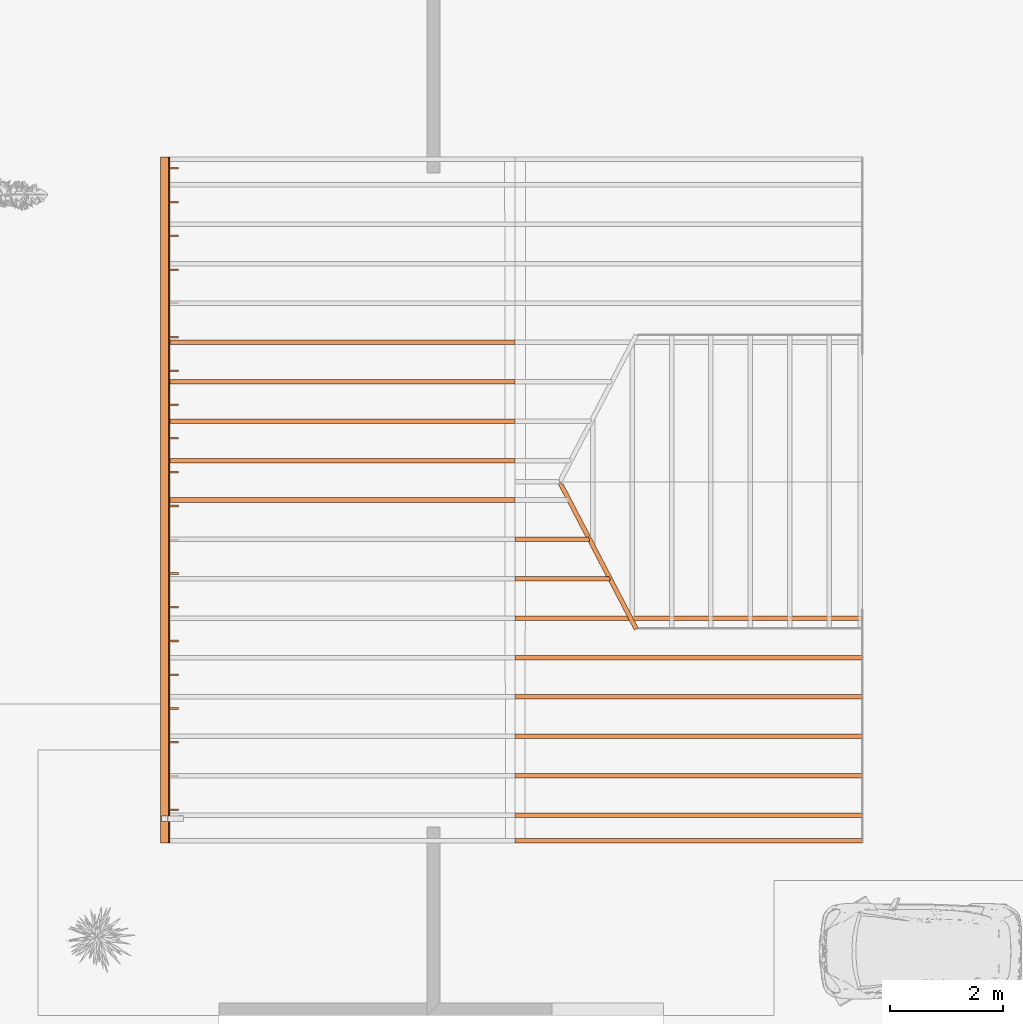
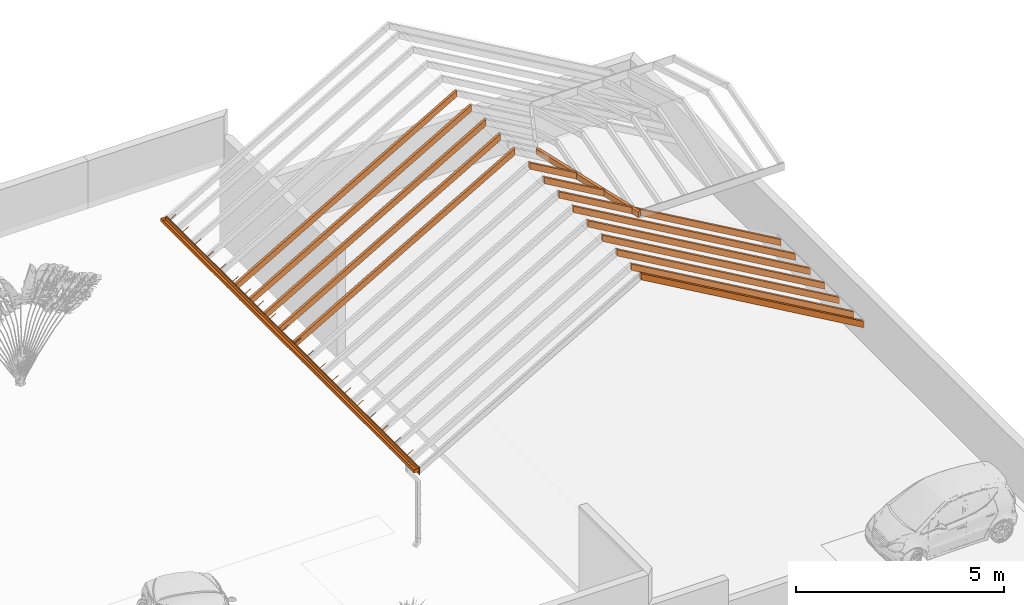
# One storey, part 3 of 7: 33 proxies.
"""IFC2X3 building model written with IfcOpenShell, lengths in metres."""

from ifc_helpers import new_model, entity, si_unit, converted_unit, derived_unit, money_unit, direction, frame, origin_with_axes, place, context, subcontext, project, spatial, open_shell, faceted_brep, surface_model, source, transform, mapped, type_object, element, save


model = new_model("IFC2X3")

# Units and contexts
model_context = context("Model", 3, precision=1e-05, world=origin_with_axes(), true_north=direction((0.0, 1.0)))
body_context = subcontext(model_context, "Body", "Model", "MODEL_VIEW")
ifc_project = project(units=[si_unit("LENGTHUNIT", "METRE"), si_unit("AREAUNIT", "SQUARE_METRE"), si_unit("VOLUMEUNIT", "CUBIC_METRE"), converted_unit("PLANEANGLEUNIT", "DEGREE", entity("IfcPlaneAngleMeasure", 0.0174532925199), si_unit("PLANEANGLEUNIT", "RADIAN"), dimensions=[0, 0, 0, 0, 0, 0, 0]), si_unit("SOLIDANGLEUNIT", "STERADIAN"), money_unit("CHF"), converted_unit("TIMEUNIT", "Year", entity("IfcTimeMeasure", 31556926.0), si_unit("TIMEUNIT", "SECOND"), dimensions=[0, 0, 1, 0, 0, 0, 0]), si_unit("MASSUNIT", "GRAM", prefix="KILO"), si_unit("THERMODYNAMICTEMPERATUREUNIT", "DEGREE_CELSIUS"), si_unit("LUMINOUSINTENSITYUNIT", "LUMEN"), si_unit("ENERGYUNIT", "JOULE", prefix="MEGA"), derived_unit("THERMALCONDUCTANCEUNIT", [(si_unit("POWERUNIT", "WATT"), 1), (si_unit("LENGTHUNIT", "METRE"), -1), (si_unit("THERMODYNAMICTEMPERATUREUNIT", "KELVIN"), -1)]), derived_unit("SPECIFICHEATCAPACITYUNIT", [(si_unit("ENERGYUNIT", "JOULE"), 1), (si_unit("MASSUNIT", "GRAM", prefix="KILO"), -1), (si_unit("THERMODYNAMICTEMPERATUREUNIT", "KELVIN"), -1)]), derived_unit("MASSDENSITYUNIT", [(si_unit("MASSUNIT", "GRAM", prefix="KILO"), 1), (si_unit("VOLUMEUNIT", "CUBIC_METRE"), -1)])], contexts=[model_context])

# Site, building, storey
site_placement = place(None, origin_with_axes())
site = spatial("IfcSite", under=ifc_project, at=site_placement, Name="Site", CompositionType="ELEMENT")
building_placement = place(site_placement, origin_with_axes())
building = spatial("IfcBuilding", under=site, at=building_placement, Name="Bâtiment", CompositionType="ELEMENT")
storey_placement = place(building_placement, frame((0.0, 0.0, 9.0), z_axis=(0.0, 0.0, 1.0), x_axis=(1.0, 0.0, 0.0)))
storey = spatial("IfcBuildingStorey", under=building, at=storey_placement, Name="TOITURE", CompositionType="ELEMENT", Elevation=9.0)

# Proxies
building_element_proxy_type_1 = type_object("IfcBuildingElementProxyType", Name="Chevron RM 20", PredefinedType="NOTDEFINED")
shared_shape_1 = source(origin_with_axes(), body_context, "Body", "Brep", [
    faceted_brep([(-0.248603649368, -0.04, 0.0412207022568), (5.88999992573, -0.04, 3.58534512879), (5.88999992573, 0.04, 3.58534512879), (-0.248603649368, 0.04, 0.0412207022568), (-0.248603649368, -0.04, -0.143531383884), (5.88999992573, -0.04, 3.40059304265), (5.88999992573, 0.04, 3.40059304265), (-0.248603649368, 0.04, -0.143531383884)], [[[0, 1, 2, 3]], [[4, 5, 1, 0]], [[2, 1, 5, 6]], [[3, 2, 6, 7]], [[3, 7, 4, 0]], [[7, 6, 5, 4]]]),
])
for number, where, z_axis, x_axis, name in (
    (1, (84.7835191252, 15.7953410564, -6.34843913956), (0.0, 0.0, 1.0), (1.0, 0.0, 0.0), "MOB-1189"),
    (2, (84.7835191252, 15.7953410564, -6.34843913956), (0.0, 0.0, 1.0), (1.0, 0.0, 0.0), "MOB-1189"),
):
    element("IfcBuildingElementProxy", number, at=place(storey_placement, frame(where, z_axis=z_axis, x_axis=x_axis)), inside=storey, type_object=building_element_proxy_type_1, Name=name, context=body_context, shape_type="MappedRepresentation", body=[
        mapped(shared_shape_1, transform((0.0, 0.0, 0.0))),
    ])
shared_shape_2 = source(origin_with_axes(), body_context, "Body", "Brep", [
    faceted_brep([(-0.279999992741, -0.04, 0.0230940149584), (5.88999992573, -0.04, 3.58534512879), (5.88999992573, 0.04, 3.58534512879), (-0.279999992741, 0.04, 0.0230940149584), (-0.279999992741, -0.04, -0.161658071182), (5.88999992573, -0.04, 3.40059304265), (5.88999992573, 0.04, 3.40059304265), (-0.279999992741, 0.04, -0.161658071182)], [[[0, 1, 2, 3]], [[4, 5, 1, 0]], [[2, 1, 5, 6]], [[3, 2, 6, 7]], [[3, 7, 4, 0]], [[7, 6, 5, 4]]]),
])
for number, where, z_axis, x_axis, name in (
    (3, (96.5635189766, 8.79534107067, -6.34843913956), (0.0, 0.0, 1.0), (-1.0, 0.0, 0.0), "MOB-1206"),
    (4, (96.5635189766, 7.39534107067, -6.34843913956), (0.0, 0.0, 1.0), (-1.0, 0.0, 0.0), "MOB-1204"),
    (5, (96.5635189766, 10.1953410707, -6.34843913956), (0.0, 0.0, 1.0), (-1.0, 0.0, 0.0), "MOB-1208"),
    (6, (96.5635189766, 8.09534107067, -6.34843913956), (0.0, 0.0, 1.0), (-1.0, 0.0, 0.0), "MOB-1205"),
    (7, (96.5635189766, 9.49534107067, -6.34843913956), (0.0, 0.0, 1.0), (-1.0, 0.0, 0.0), "MOB-1207"),
    (8, (96.5635189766, 10.8953410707, -6.34843913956), (0.0, 0.0, 1.0), (-1.0, 0.0, 0.0), "MOB-1209"),
    (9, (96.5635189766, 8.79534107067, -6.34843913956), (0.0, 0.0, 1.0), (-1.0, 0.0, 0.0), "MOB-1206"),
    (10, (96.5635189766, 7.39534107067, -6.34843913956), (0.0, 0.0, 1.0), (-1.0, 0.0, 0.0), "MOB-1204"),
    (11, (96.5635189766, 10.1953410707, -6.34843913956), (0.0, 0.0, 1.0), (-1.0, 0.0, 0.0), "MOB-1208"),
    (12, (96.5635189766, 8.09534107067, -6.34843913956), (0.0, 0.0, 1.0), (-1.0, 0.0, 0.0), "MOB-1205"),
    (13, (96.5635189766, 9.49534107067, -6.34843913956), (0.0, 0.0, 1.0), (-1.0, 0.0, 0.0), "MOB-1207"),
    (14, (96.5635189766, 10.8953410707, -6.34843913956), (0.0, 0.0, 1.0), (-1.0, 0.0, 0.0), "MOB-1209"),
):
    element("IfcBuildingElementProxy", number, at=place(storey_placement, frame(where, z_axis=z_axis, x_axis=x_axis)), inside=storey, type_object=building_element_proxy_type_1, Name=name, context=body_context, shape_type="MappedRepresentation", body=[
        mapped(shared_shape_2, transform((0.0, 0.0, 0.0))),
    ])
shared_shape_3 = source(origin_with_axes(), body_context, "Body", "Brep", [
    faceted_brep([(-0.250666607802, -0.04, 0.0400296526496), (5.88999992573, -0.04, 3.58534512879), (5.88999992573, 0.04, 3.58534512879), (-0.250666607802, 0.04, 0.0400296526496), (-0.250666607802, -0.04, -0.144722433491), (5.88999992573, -0.04, 3.40059304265), (5.88999992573, 0.04, 3.40059304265), (-0.250666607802, 0.04, -0.144722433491)], [[[0, 1, 2, 3]], [[4, 5, 1, 0]], [[2, 1, 5, 6]], [[3, 2, 6, 7]], [[3, 7, 4, 0]], [[7, 6, 5, 4]]]),
])
for number, where, z_axis, x_axis, name in (
    (15, (84.7835191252, 13.6953410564, -6.34843913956), (0.0, 0.0, 1.0), (1.0, 0.0, 0.0), "MOB-1192"),
    (16, (84.7835191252, 13.6953410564, -6.34843913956), (0.0, 0.0, 1.0), (1.0, 0.0, 0.0), "MOB-1192"),
):
    element("IfcBuildingElementProxy", number, at=place(storey_placement, frame(where, z_axis=z_axis, x_axis=x_axis)), inside=storey, type_object=building_element_proxy_type_1, Name=name, context=body_context, shape_type="MappedRepresentation", body=[
        mapped(shared_shape_3, transform((0.0, 0.0, 0.0))),
    ])
shared_shape_4 = source(origin_with_axes(), body_context, "Body", "Brep", [
    faceted_brep([(-0.24845206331, -0.04, 0.0413082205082), (5.88999992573, -0.04, 3.58534512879), (5.88999992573, 0.04, 3.58534512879), (-0.24845206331, 0.04, 0.0413082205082), (-0.24845206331, -0.04, -0.143443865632), (5.88999992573, -0.04, 3.40059304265), (5.88999992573, 0.04, 3.40059304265), (-0.24845206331, 0.04, -0.143443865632)], [[[0, 1, 2, 3]], [[4, 5, 1, 0]], [[2, 1, 5, 6]], [[3, 2, 6, 7]], [[3, 7, 4, 0]], [[7, 6, 5, 4]]]),
])
for number, where, z_axis, x_axis, name in (
    (17, (84.7835191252, 15.0953410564, -6.34843913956), (0.0, 0.0, 1.0), (1.0, 0.0, 0.0), "MOB-1190"),
    (18, (84.7835191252, 15.0953410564, -6.34843913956), (0.0, 0.0, 1.0), (1.0, 0.0, 0.0), "MOB-1190"),
):
    element("IfcBuildingElementProxy", number, at=place(storey_placement, frame(where, z_axis=z_axis, x_axis=x_axis)), inside=storey, type_object=building_element_proxy_type_1, Name=name, context=body_context, shape_type="MappedRepresentation", body=[
        mapped(shared_shape_4, transform((0.0, 0.0, 0.0))),
    ])
building_element_proxy_type_2 = type_object("IfcBuildingElementProxyType", Name="Chevron d'arêtier RM 20", PredefinedType="NOTDEFINED")
shared_shape_5 = source(origin_with_axes(), body_context, "Body", "Brep", [
    faceted_brep([(0.0, -0.0399999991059, 0.0), (-0.315732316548, -0.0399999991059, -0.0829397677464), (-0.315732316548, 0.0399999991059, -0.0829397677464), (0.0, 0.0399999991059, 0.0), (-0.315732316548, -0.0399999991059, 0.0824886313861), (2.56139677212, -0.0399999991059, 0.672853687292), (2.56139677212, -0.0399999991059, 0.838282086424), (-0.315732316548, 0.0399999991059, 0.0824886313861), (2.60308259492, 0.0399999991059, 0.849232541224), (2.60308259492, 0.0399999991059, 0.683804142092), (2.62734430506, 0.0, 0.690177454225), (2.62734430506, 0.0, 0.855605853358)], [[[0, 1, 2, 3]], [[4, 1, 0, 5, 6]], [[1, 4, 7, 2]], [[2, 7, 8, 9, 3]], [[3, 9, 10, 5, 0]], [[6, 5, 10, 11]], [[7, 4, 6, 11, 8]], [[9, 8, 11, 10]]]),
])
for number, where, z_axis, x_axis, name in (
    (19, (92.6776186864, 10.9853410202, -4.08429881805), (0.0, 0.0, 1.0), (-0.462101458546, 0.886827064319, 0.0), "MOB-1180"),
    (20, (92.6776186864, 10.9853410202, -4.08429881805), (0.0, 0.0, 1.0), (-0.462101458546, 0.886827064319, 0.0), "MOB-1180"),
):
    element("IfcBuildingElementProxy", number, at=place(storey_placement, frame(where, z_axis=z_axis, x_axis=x_axis)), inside=storey, type_object=building_element_proxy_type_2, Name=name, context=body_context, shape_type="MappedRepresentation", body=[
        mapped(shared_shape_5, transform((0.0, 0.0, 0.0))),
    ])
building_element_proxy_type_3 = type_object("IfcBuildingElementProxyType", Name="Empannon RM 20", PredefinedType="NOTDEFINED")
shared_shape_6 = source(origin_with_axes(), body_context, "Body", "Brep", [
    faceted_brep([(0.0, 0.04, 0.0), (0.0, -0.04, 0.0), (0.0, -0.04, 0.184752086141), (0.0, 0.04, 0.184752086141), (1.66540229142, 0.04, -0.961520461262), (1.68624520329, 0.0, -0.973554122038), (1.68624520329, -0.04, -0.973554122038), (1.68624520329, -0.04, -0.788802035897), (1.68624520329, 0.0, -0.788802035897), (1.66540229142, 0.04, -0.776768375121)], [[[0, 1, 2, 3]], [[4, 5, 6, 1, 0]], [[1, 6, 7, 2]], [[3, 2, 7, 8, 9]], [[0, 3, 9, 4]], [[9, 8, 5, 4]], [[5, 8, 7, 6]]]),
])
for number, where, z_axis, x_axis, name in (
    (21, (90.6735190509, 11.5953410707, -2.94784609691), (0.0, 0.0, 1.0), (1.0, 0.0, 0.0), "MOB-1211"),
    (22, (90.6735190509, 11.5953410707, -2.94784609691), (0.0, 0.0, 1.0), (1.0, 0.0, 0.0), "MOB-1211"),
):
    element("IfcBuildingElementProxy", number, at=place(storey_placement, frame(where, z_axis=z_axis, x_axis=x_axis)), inside=storey, type_object=building_element_proxy_type_3, Name=name, context=body_context, shape_type="MappedRepresentation", body=[
        mapped(shared_shape_6, transform((0.0, 0.0, 0.0))),
    ])
shared_shape_7 = source(origin_with_axes(), body_context, "Body", "Brep", [
    faceted_brep([(0.0, 0.04, 0.0), (0.0, -0.04, 0.0), (0.0, -0.04, 0.184752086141), (0.0, 0.04, 0.184752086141), (1.30065133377, 0.04, -0.750931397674), (1.32149424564, 0.0, -0.762965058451), (1.32149424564, -0.04, -0.762965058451), (1.32149424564, -0.04, -0.57821297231), (1.32149424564, 0.0, -0.57821297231), (1.30065133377, 0.04, -0.566179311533)], [[[0, 1, 2, 3]], [[4, 5, 6, 1, 0]], [[1, 6, 7, 2]], [[3, 2, 7, 8, 9]], [[0, 3, 9, 4]], [[9, 8, 5, 4]], [[5, 8, 7, 6]]]),
])
for number, where, z_axis, x_axis, name in (
    (23, (90.6735190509, 12.2953410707, -2.94784609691), (0.0, 0.0, 1.0), (1.0, 0.0, 0.0), "MOB-1212"),
    (24, (90.6735190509, 12.2953410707, -2.94784609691), (0.0, 0.0, 1.0), (1.0, 0.0, 0.0), "MOB-1212"),
):
    element("IfcBuildingElementProxy", number, at=place(storey_placement, frame(where, z_axis=z_axis, x_axis=x_axis)), inside=storey, type_object=building_element_proxy_type_3, Name=name, context=body_context, shape_type="MappedRepresentation", body=[
        mapped(shared_shape_7, transform((0.0, 0.0, 0.0))),
    ])
building_element_proxy_type_4 = type_object("IfcBuildingElementProxyType", Name="Panne 20", PredefinedType="NOTDEFINED")
shared_shape_8 = source(origin_with_axes(), body_context, "Body", "Brep", [
    faceted_brep([(0.0, -0.01, 0.23), (-12.1900000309, -0.01, 0.23), (-12.1900000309, -0.01, 0.0), (0.0, -0.01, 0.0), (0.0, 0.01, 0.23), (-12.1900000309, 0.01, 0.23), (-12.1900000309, 0.01, 0.0), (0.0, 0.01, 0.0)], [[[0, 1, 2, 3]], [[4, 5, 1, 0]], [[1, 5, 6, 2]], [[3, 2, 6, 7]], [[0, 3, 7, 4]], [[7, 6, 5, 4]]]),
])
proxy_placement = place(storey_placement, frame((84.5235190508, 6.90034105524, -6.5253451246), z_axis=(0.0, 0.0, 1.0), x_axis=(0.0, -1.0, 0.0)))
element("IfcBuildingElementProxy", 25, at=proxy_placement, inside=storey, type_object=building_element_proxy_type_4, Name="MOB-1154", context=body_context, shape_type="MappedRepresentation", body=[
    mapped(shared_shape_8, transform((0.0, 0.0, 0.0))),
])
shared_shape_9 = source(origin_with_axes(), body_context, "Body", "Brep", [
    faceted_brep([(-0.279999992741, -0.04, 0.0230940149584), (5.88999992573, -0.04, 3.58534512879), (5.88999992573, 0.04, 3.58534512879), (-0.279999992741, 0.04, 0.0230940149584), (-0.279999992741, -0.04, -0.161658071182), (5.88999992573, -0.04, 3.40059304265), (5.88999992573, 0.04, 3.40059304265), (-0.279999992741, 0.04, -0.161658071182)], [[[0, 1, 2, 3]], [[4, 5, 1, 0]], [[2, 1, 5, 6]], [[3, 2, 6, 7]], [[3, 7, 4, 0]], [[7, 6, 5, 4]]]),
])
for number, where, z_axis, x_axis, name in (
    (26, (96.5635189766, 6.94034105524, -6.34843913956), (0.0, 0.0, 1.0), (-1.0, 0.0, 0.0), "MOB-1203"),
    (27, (96.5635189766, 6.94034105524, -6.34843913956), (0.0, 0.0, 1.0), (-1.0, 0.0, 0.0), "MOB-1203"),
):
    element("IfcBuildingElementProxy", number, at=place(storey_placement, frame(where, z_axis=z_axis, x_axis=x_axis)), inside=storey, type_object=building_element_proxy_type_1, Name=name, context=body_context, shape_type="MappedRepresentation", body=[
        mapped(shared_shape_9, transform((0.0, 0.0, 0.0))),
    ])
shared_shape_10 = source(origin_with_axes(), body_context, "Body", "Brep", [
    faceted_brep([(-0.249188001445, -0.04, 0.0408833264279), (5.88999992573, -0.04, 3.58534512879), (5.88999992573, 0.04, 3.58534512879), (-0.249188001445, 0.04, 0.0408833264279), (-0.249188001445, -0.04, -0.143868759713), (5.88999992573, -0.04, 3.40059304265), (5.88999992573, 0.04, 3.40059304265), (-0.249188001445, 0.04, -0.143868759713)], [[[0, 1, 2, 3]], [[4, 5, 1, 0]], [[2, 1, 5, 6]], [[3, 2, 6, 7]], [[3, 7, 4, 0]], [[7, 6, 5, 4]]]),
])
for number, where, z_axis, x_axis, name in (
    (28, (84.7835191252, 14.3953410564, -6.34843913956), (0.0, 0.0, 1.0), (1.0, 0.0, 0.0), "MOB-1191"),
    (29, (84.7835191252, 14.3953410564, -6.34843913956), (0.0, 0.0, 1.0), (1.0, 0.0, 0.0), "MOB-1191"),
):
    element("IfcBuildingElementProxy", number, at=place(storey_placement, frame(where, z_axis=z_axis, x_axis=x_axis)), inside=storey, type_object=building_element_proxy_type_1, Name=name, context=body_context, shape_type="MappedRepresentation", body=[
        mapped(shared_shape_10, transform((0.0, 0.0, 0.0))),
    ])
shared_shape_11 = source(origin_with_axes(), body_context, "Body", "Brep", [
    faceted_brep([(-0.25000007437, -0.04, 0.0404144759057), (5.88999992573, -0.04, 3.58534512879), (5.88999992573, 0.04, 3.58534512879), (-0.25000007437, 0.04, 0.0404144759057), (-0.25000007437, -0.04, -0.144337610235), (5.88999992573, -0.04, 3.40059304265), (5.88999992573, 0.04, 3.40059304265), (-0.25000007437, 0.04, -0.144337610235)], [[[0, 1, 2, 3]], [[4, 5, 1, 0]], [[2, 1, 5, 6]], [[3, 2, 6, 7]], [[3, 7, 4, 0]], [[7, 6, 5, 4]]]),
])
for number, where, z_axis, x_axis, name in (
    (30, (84.7835191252, 12.9953410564, -6.34843913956), (0.0, 0.0, 1.0), (1.0, 0.0, 0.0), "MOB-1193"),
    (31, (84.7835191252, 12.9953410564, -6.34843913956), (0.0, 0.0, 1.0), (1.0, 0.0, 0.0), "MOB-1193"),
):
    element("IfcBuildingElementProxy", number, at=place(storey_placement, frame(where, z_axis=z_axis, x_axis=x_axis)), inside=storey, type_object=building_element_proxy_type_1, Name=name, context=body_context, shape_type="MappedRepresentation", body=[
        mapped(shared_shape_11, transform((0.0, 0.0, 0.0))),
    ])
building_element_proxy_type_5 = type_object("IfcBuildingElementProxyType", Name="Gouttière 24", PredefinedType="NOTDEFINED")
shared_shape_12 = source(origin_with_axes(), body_context, "Body", "SurfaceModel", [
    surface_model("IfcShellBasedSurfaceModel", [(0.0, 0.07, -0.1), (0.0, -0.07, -0.1), (12.1900000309, -0.07, -0.1), (12.1900000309, 0.07, -0.1), (11.80918957, 0.05, -0.1), (11.80918957, -0.05, -0.1), (11.70918957, -0.05, -0.1), (11.70918957, 0.05, -0.1), (0.0, -0.07, 0.0), (12.1900000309, -0.07, 0.0), (12.1900000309, 0.07, 0.0), (0.0, 0.07, 0.0)], [open_shell([[[0, 1, 2, 3], [4, 5, 6, 7]], [[2, 1, 8, 9]], [[10, 11, 0, 3]]])]),
    surface_model("IfcShellBasedSurfaceModel", [(0.185, -0.074, 0.002), (0.185, -0.074, -0.102), (0.215, -0.074, -0.102), (0.215, -0.074, 0.002), (0.185, 0.074, -0.102), (0.215, 0.074, -0.102), (0.185, 0.074, 0.002), (0.215, 0.074, 0.002)], [open_shell([[[0, 1, 2, 3]], [[1, 4, 5, 2]], [[4, 6, 7, 5]]])]),
    surface_model("IfcShellBasedSurfaceModel", [(0.185, 0.074, 0.002), (0.185, 0.074, 0.022), (0.215, 0.074, 0.022), (0.215, 0.074, 0.002)], [open_shell([[[0, 1, 2, 3]]])]),
    surface_model("IfcShellBasedSurfaceModel", [(0.185, 0.074, 0.022), (0.185, 0.247205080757, 0.122), (0.215, 0.247205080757, 0.122), (0.215, 0.074, 0.022)], [open_shell([[[0, 1, 2, 3]]])]),
    surface_model("IfcShellBasedSurfaceModel", [(0.785, -0.074, 0.002), (0.785, -0.074, -0.102), (0.815, -0.074, -0.102), (0.815, -0.074, 0.002), (0.785, 0.074, -0.102), (0.815, 0.074, -0.102), (0.785, 0.074, 0.002), (0.815, 0.074, 0.002)], [open_shell([[[0, 1, 2, 3]], [[1, 4, 5, 2]], [[4, 6, 7, 5]]])]),
    surface_model("IfcShellBasedSurfaceModel", [(0.785, 0.074, 0.002), (0.785, 0.074, 0.022), (0.815, 0.074, 0.022), (0.815, 0.074, 0.002)], [open_shell([[[0, 1, 2, 3]]])]),
    surface_model("IfcShellBasedSurfaceModel", [(0.785, 0.074, 0.022), (0.785, 0.247205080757, 0.122), (0.815, 0.247205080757, 0.122), (0.815, 0.074, 0.022)], [open_shell([[[0, 1, 2, 3]]])]),
    surface_model("IfcShellBasedSurfaceModel", [(1.385, -0.074, 0.002), (1.385, -0.074, -0.102), (1.415, -0.074, -0.102), (1.415, -0.074, 0.002), (1.385, 0.074, -0.102), (1.415, 0.074, -0.102), (1.385, 0.074, 0.002), (1.415, 0.074, 0.002)], [open_shell([[[0, 1, 2, 3]], [[1, 4, 5, 2]], [[4, 6, 7, 5]]])]),
    surface_model("IfcShellBasedSurfaceModel", [(1.385, 0.074, 0.002), (1.385, 0.074, 0.022), (1.415, 0.074, 0.022), (1.415, 0.074, 0.002)], [open_shell([[[0, 1, 2, 3]]])]),
    surface_model("IfcShellBasedSurfaceModel", [(1.385, 0.074, 0.022), (1.385, 0.247205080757, 0.122), (1.415, 0.247205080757, 0.122), (1.415, 0.074, 0.022)], [open_shell([[[0, 1, 2, 3]]])]),
    surface_model("IfcShellBasedSurfaceModel", [(1.985, -0.074, 0.002), (1.985, -0.074, -0.102), (2.015, -0.074, -0.102), (2.015, -0.074, 0.002), (1.985, 0.074, -0.102), (2.015, 0.074, -0.102), (1.985, 0.074, 0.002), (2.015, 0.074, 0.002)], [open_shell([[[0, 1, 2, 3]], [[1, 4, 5, 2]], [[4, 6, 7, 5]]])]),
    surface_model("IfcShellBasedSurfaceModel", [(1.985, 0.074, 0.002), (1.985, 0.074, 0.022), (2.015, 0.074, 0.022), (2.015, 0.074, 0.002)], [open_shell([[[0, 1, 2, 3]]])]),
    surface_model("IfcShellBasedSurfaceModel", [(1.985, 0.074, 0.022), (1.985, 0.247205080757, 0.122), (2.015, 0.247205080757, 0.122), (2.015, 0.074, 0.022)], [open_shell([[[0, 1, 2, 3]]])]),
    surface_model("IfcShellBasedSurfaceModel", [(2.585, -0.074, 0.002), (2.585, -0.074, -0.102), (2.615, -0.074, -0.102), (2.615, -0.074, 0.002), (2.585, 0.074, -0.102), (2.615, 0.074, -0.102), (2.585, 0.074, 0.002), (2.615, 0.074, 0.002)], [open_shell([[[0, 1, 2, 3]], [[1, 4, 5, 2]], [[4, 6, 7, 5]]])]),
    surface_model("IfcShellBasedSurfaceModel", [(2.585, 0.074, 0.002), (2.585, 0.074, 0.022), (2.615, 0.074, 0.022), (2.615, 0.074, 0.002)], [open_shell([[[0, 1, 2, 3]]])]),
    surface_model("IfcShellBasedSurfaceModel", [(2.585, 0.074, 0.022), (2.585, 0.247205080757, 0.122), (2.615, 0.247205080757, 0.122), (2.615, 0.074, 0.022)], [open_shell([[[0, 1, 2, 3]]])]),
    surface_model("IfcShellBasedSurfaceModel", [(3.185, -0.074, 0.002), (3.185, -0.074, -0.102), (3.215, -0.074, -0.102), (3.215, -0.074, 0.002), (3.185, 0.074, -0.102), (3.215, 0.074, -0.102), (3.185, 0.074, 0.002), (3.215, 0.074, 0.002)], [open_shell([[[0, 1, 2, 3]], [[1, 4, 5, 2]], [[4, 6, 7, 5]]])]),
    surface_model("IfcShellBasedSurfaceModel", [(3.185, 0.074, 0.002), (3.185, 0.074, 0.022), (3.215, 0.074, 0.022), (3.215, 0.074, 0.002)], [open_shell([[[0, 1, 2, 3]]])]),
    surface_model("IfcShellBasedSurfaceModel", [(3.185, 0.074, 0.022), (3.185, 0.247205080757, 0.122), (3.215, 0.247205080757, 0.122), (3.215, 0.074, 0.022)], [open_shell([[[0, 1, 2, 3]]])]),
    surface_model("IfcShellBasedSurfaceModel", [(3.785, -0.074, 0.002), (3.785, -0.074, -0.102), (3.815, -0.074, -0.102), (3.815, -0.074, 0.002), (3.785, 0.074, -0.102), (3.815, 0.074, -0.102), (3.785, 0.074, 0.002), (3.815, 0.074, 0.002)], [open_shell([[[0, 1, 2, 3]], [[1, 4, 5, 2]], [[4, 6, 7, 5]]])]),
    surface_model("IfcShellBasedSurfaceModel", [(3.785, 0.074, 0.002), (3.785, 0.074, 0.022), (3.815, 0.074, 0.022), (3.815, 0.074, 0.002)], [open_shell([[[0, 1, 2, 3]]])]),
    surface_model("IfcShellBasedSurfaceModel", [(3.785, 0.074, 0.022), (3.785, 0.247205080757, 0.122), (3.815, 0.247205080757, 0.122), (3.815, 0.074, 0.022)], [open_shell([[[0, 1, 2, 3]]])]),
    surface_model("IfcShellBasedSurfaceModel", [(4.385, -0.074, 0.002), (4.385, -0.074, -0.102), (4.415, -0.074, -0.102), (4.415, -0.074, 0.002), (4.385, 0.074, -0.102), (4.415, 0.074, -0.102), (4.385, 0.074, 0.002), (4.415, 0.074, 0.002)], [open_shell([[[0, 1, 2, 3]], [[1, 4, 5, 2]], [[4, 6, 7, 5]]])]),
    surface_model("IfcShellBasedSurfaceModel", [(4.385, 0.074, 0.002), (4.385, 0.074, 0.022), (4.415, 0.074, 0.022), (4.415, 0.074, 0.002)], [open_shell([[[0, 1, 2, 3]]])]),
    surface_model("IfcShellBasedSurfaceModel", [(4.385, 0.074, 0.022), (4.385, 0.247205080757, 0.122), (4.415, 0.247205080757, 0.122), (4.415, 0.074, 0.022)], [open_shell([[[0, 1, 2, 3]]])]),
    surface_model("IfcShellBasedSurfaceModel", [(4.985, -0.074, 0.002), (4.985, -0.074, -0.102), (5.015, -0.074, -0.102), (5.015, -0.074, 0.002), (4.985, 0.074, -0.102), (5.015, 0.074, -0.102), (4.985, 0.074, 0.002), (5.015, 0.074, 0.002)], [open_shell([[[0, 1, 2, 3]], [[1, 4, 5, 2]], [[4, 6, 7, 5]]])]),
    surface_model("IfcShellBasedSurfaceModel", [(4.985, 0.074, 0.002), (4.985, 0.074, 0.022), (5.015, 0.074, 0.022), (5.015, 0.074, 0.002)], [open_shell([[[0, 1, 2, 3]]])]),
    surface_model("IfcShellBasedSurfaceModel", [(4.985, 0.074, 0.022), (4.985, 0.247205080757, 0.122), (5.015, 0.247205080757, 0.122), (5.015, 0.074, 0.022)], [open_shell([[[0, 1, 2, 3]]])]),
    surface_model("IfcShellBasedSurfaceModel", [(5.585, -0.074, 0.002), (5.585, -0.074, -0.102), (5.615, -0.074, -0.102), (5.615, -0.074, 0.002), (5.585, 0.074, -0.102), (5.615, 0.074, -0.102), (5.585, 0.074, 0.002), (5.615, 0.074, 0.002)], [open_shell([[[0, 1, 2, 3]], [[1, 4, 5, 2]], [[4, 6, 7, 5]]])]),
    surface_model("IfcShellBasedSurfaceModel", [(5.585, 0.074, 0.002), (5.585, 0.074, 0.022), (5.615, 0.074, 0.022), (5.615, 0.074, 0.002)], [open_shell([[[0, 1, 2, 3]]])]),
    surface_model("IfcShellBasedSurfaceModel", [(5.585, 0.074, 0.022), (5.585, 0.247205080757, 0.122), (5.615, 0.247205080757, 0.122), (5.615, 0.074, 0.022)], [open_shell([[[0, 1, 2, 3]]])]),
    surface_model("IfcShellBasedSurfaceModel", [(6.185, -0.074, 0.002), (6.185, -0.074, -0.102), (6.215, -0.074, -0.102), (6.215, -0.074, 0.002), (6.185, 0.074, -0.102), (6.215, 0.074, -0.102), (6.185, 0.074, 0.002), (6.215, 0.074, 0.002)], [open_shell([[[0, 1, 2, 3]], [[1, 4, 5, 2]], [[4, 6, 7, 5]]])]),
    surface_model("IfcShellBasedSurfaceModel", [(6.185, 0.074, 0.002), (6.185, 0.074, 0.022), (6.215, 0.074, 0.022), (6.215, 0.074, 0.002)], [open_shell([[[0, 1, 2, 3]]])]),
    surface_model("IfcShellBasedSurfaceModel", [(6.185, 0.074, 0.022), (6.185, 0.247205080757, 0.122), (6.215, 0.247205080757, 0.122), (6.215, 0.074, 0.022)], [open_shell([[[0, 1, 2, 3]]])]),
    surface_model("IfcShellBasedSurfaceModel", [(6.785, -0.074, 0.002), (6.785, -0.074, -0.102), (6.815, -0.074, -0.102), (6.815, -0.074, 0.002), (6.785, 0.074, -0.102), (6.815, 0.074, -0.102), (6.785, 0.074, 0.002), (6.815, 0.074, 0.002)], [open_shell([[[0, 1, 2, 3]], [[1, 4, 5, 2]], [[4, 6, 7, 5]]])]),
    surface_model("IfcShellBasedSurfaceModel", [(6.785, 0.074, 0.002), (6.785, 0.074, 0.022), (6.815, 0.074, 0.022), (6.815, 0.074, 0.002)], [open_shell([[[0, 1, 2, 3]]])]),
    surface_model("IfcShellBasedSurfaceModel", [(6.785, 0.074, 0.022), (6.785, 0.247205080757, 0.122), (6.815, 0.247205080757, 0.122), (6.815, 0.074, 0.022)], [open_shell([[[0, 1, 2, 3]]])]),
    surface_model("IfcShellBasedSurfaceModel", [(7.385, -0.074, 0.002), (7.385, -0.074, -0.102), (7.415, -0.074, -0.102), (7.415, -0.074, 0.002), (7.385, 0.074, -0.102), (7.415, 0.074, -0.102), (7.385, 0.074, 0.002), (7.415, 0.074, 0.002)], [open_shell([[[0, 1, 2, 3]], [[1, 4, 5, 2]], [[4, 6, 7, 5]]])]),
    surface_model("IfcShellBasedSurfaceModel", [(7.385, 0.074, 0.002), (7.385, 0.074, 0.022), (7.415, 0.074, 0.022), (7.415, 0.074, 0.002)], [open_shell([[[0, 1, 2, 3]]])]),
    surface_model("IfcShellBasedSurfaceModel", [(7.385, 0.074, 0.022), (7.385, 0.247205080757, 0.122), (7.415, 0.247205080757, 0.122), (7.415, 0.074, 0.022)], [open_shell([[[0, 1, 2, 3]]])]),
    surface_model("IfcShellBasedSurfaceModel", [(7.985, -0.074, 0.002), (7.985, -0.074, -0.102), (8.015, -0.074, -0.102), (8.015, -0.074, 0.002), (7.985, 0.074, -0.102), (8.015, 0.074, -0.102), (7.985, 0.074, 0.002), (8.015, 0.074, 0.002)], [open_shell([[[0, 1, 2, 3]], [[1, 4, 5, 2]], [[4, 6, 7, 5]]])]),
    surface_model("IfcShellBasedSurfaceModel", [(7.985, 0.074, 0.002), (7.985, 0.074, 0.022), (8.015, 0.074, 0.022), (8.015, 0.074, 0.002)], [open_shell([[[0, 1, 2, 3]]])]),
    surface_model("IfcShellBasedSurfaceModel", [(7.985, 0.074, 0.022), (7.985, 0.247205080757, 0.122), (8.015, 0.247205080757, 0.122), (8.015, 0.074, 0.022)], [open_shell([[[0, 1, 2, 3]]])]),
    surface_model("IfcShellBasedSurfaceModel", [(8.585, -0.074, 0.002), (8.585, -0.074, -0.102), (8.615, -0.074, -0.102), (8.615, -0.074, 0.002), (8.585, 0.074, -0.102), (8.615, 0.074, -0.102), (8.585, 0.074, 0.002), (8.615, 0.074, 0.002)], [open_shell([[[0, 1, 2, 3]], [[1, 4, 5, 2]], [[4, 6, 7, 5]]])]),
    surface_model("IfcShellBasedSurfaceModel", [(8.585, 0.074, 0.002), (8.585, 0.074, 0.022), (8.615, 0.074, 0.022), (8.615, 0.074, 0.002)], [open_shell([[[0, 1, 2, 3]]])]),
    surface_model("IfcShellBasedSurfaceModel", [(8.585, 0.074, 0.022), (8.585, 0.247205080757, 0.122), (8.615, 0.247205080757, 0.122), (8.615, 0.074, 0.022)], [open_shell([[[0, 1, 2, 3]]])]),
    surface_model("IfcShellBasedSurfaceModel", [(9.185, -0.074, 0.002), (9.185, -0.074, -0.102), (9.215, -0.074, -0.102), (9.215, -0.074, 0.002), (9.185, 0.074, -0.102), (9.215, 0.074, -0.102), (9.185, 0.074, 0.002), (9.215, 0.074, 0.002)], [open_shell([[[0, 1, 2, 3]], [[1, 4, 5, 2]], [[4, 6, 7, 5]]])]),
    surface_model("IfcShellBasedSurfaceModel", [(9.185, 0.074, 0.002), (9.185, 0.074, 0.022), (9.215, 0.074, 0.022), (9.215, 0.074, 0.002)], [open_shell([[[0, 1, 2, 3]]])]),
    surface_model("IfcShellBasedSurfaceModel", [(9.185, 0.074, 0.022), (9.185, 0.247205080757, 0.122), (9.215, 0.247205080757, 0.122), (9.215, 0.074, 0.022)], [open_shell([[[0, 1, 2, 3]]])]),
    surface_model("IfcShellBasedSurfaceModel", [(9.785, -0.074, 0.002), (9.785, -0.074, -0.102), (9.815, -0.074, -0.102), (9.815, -0.074, 0.002), (9.785, 0.074, -0.102), (9.815, 0.074, -0.102), (9.785, 0.074, 0.002), (9.815, 0.074, 0.002)], [open_shell([[[0, 1, 2, 3]], [[1, 4, 5, 2]], [[4, 6, 7, 5]]])]),
    surface_model("IfcShellBasedSurfaceModel", [(9.785, 0.074, 0.002), (9.785, 0.074, 0.022), (9.815, 0.074, 0.022), (9.815, 0.074, 0.002)], [open_shell([[[0, 1, 2, 3]]])]),
    surface_model("IfcShellBasedSurfaceModel", [(9.785, 0.074, 0.022), (9.785, 0.247205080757, 0.122), (9.815, 0.247205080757, 0.122), (9.815, 0.074, 0.022)], [open_shell([[[0, 1, 2, 3]]])]),
    surface_model("IfcShellBasedSurfaceModel", [(10.385, -0.074, 0.002), (10.385, -0.074, -0.102), (10.415, -0.074, -0.102), (10.415, -0.074, 0.002), (10.385, 0.074, -0.102), (10.415, 0.074, -0.102), (10.385, 0.074, 0.002), (10.415, 0.074, 0.002)], [open_shell([[[0, 1, 2, 3]], [[1, 4, 5, 2]], [[4, 6, 7, 5]]])]),
    surface_model("IfcShellBasedSurfaceModel", [(10.385, 0.074, 0.002), (10.385, 0.074, 0.022), (10.415, 0.074, 0.022), (10.415, 0.074, 0.002)], [open_shell([[[0, 1, 2, 3]]])]),
    surface_model("IfcShellBasedSurfaceModel", [(10.385, 0.074, 0.022), (10.385, 0.247205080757, 0.122), (10.415, 0.247205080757, 0.122), (10.415, 0.074, 0.022)], [open_shell([[[0, 1, 2, 3]]])]),
    surface_model("IfcShellBasedSurfaceModel", [(10.985, -0.074, 0.002), (10.985, -0.074, -0.102), (11.015, -0.074, -0.102), (11.015, -0.074, 0.002), (10.985, 0.074, -0.102), (11.015, 0.074, -0.102), (10.985, 0.074, 0.002), (11.015, 0.074, 0.002)], [open_shell([[[0, 1, 2, 3]], [[1, 4, 5, 2]], [[4, 6, 7, 5]]])]),
    surface_model("IfcShellBasedSurfaceModel", [(10.985, 0.074, 0.002), (10.985, 0.074, 0.022), (11.015, 0.074, 0.022), (11.015, 0.074, 0.002)], [open_shell([[[0, 1, 2, 3]]])]),
    surface_model("IfcShellBasedSurfaceModel", [(10.985, 0.074, 0.022), (10.985, 0.247205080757, 0.122), (11.015, 0.247205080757, 0.122), (11.015, 0.074, 0.022)], [open_shell([[[0, 1, 2, 3]]])]),
    surface_model("IfcShellBasedSurfaceModel", [(11.585, -0.074, 0.002), (11.585, -0.074, -0.102), (11.615, -0.074, -0.102), (11.615, -0.074, 0.002), (11.585, 0.074, -0.102), (11.615, 0.074, -0.102), (11.585, 0.074, 0.002), (11.615, 0.074, 0.002)], [open_shell([[[0, 1, 2, 3]], [[1, 4, 5, 2]], [[4, 6, 7, 5]]])]),
    surface_model("IfcShellBasedSurfaceModel", [(11.585, 0.074, 0.002), (11.585, 0.074, 0.022), (11.615, 0.074, 0.022), (11.615, 0.074, 0.002)], [open_shell([[[0, 1, 2, 3]]])]),
    surface_model("IfcShellBasedSurfaceModel", [(11.585, 0.074, 0.022), (11.585, 0.247205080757, 0.122), (11.615, 0.247205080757, 0.122), (11.615, 0.074, 0.022)], [open_shell([[[0, 1, 2, 3]]])]),
    surface_model("IfcShellBasedSurfaceModel", [(0.0, 0.07, 0.0), (0.0, 0.07, -0.1), (0.0, -0.07, -0.1), (0.0, -0.07, 0.0)], [open_shell([[[0, 1, 2, 3]]])]),
    surface_model("IfcShellBasedSurfaceModel", [(12.1900000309, 0.07, 0.0), (12.1900000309, 0.07, -0.1), (12.1900000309, -0.07, -0.1), (12.1900000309, -0.07, 0.0)], [open_shell([[[0, 1, 2, 3]]])]),
])
for number, where, z_axis, x_axis, name in (
    (32, (84.4395190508, 19.0903410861, -6.3173451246), (0.0, 0.0, 1.0), (0.0, -1.0, 0.0), "MOB-1154"),
    (33, (84.4395190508, 19.0903410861, -6.3173451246), (0.0, 0.0, 1.0), (0.0, -1.0, 0.0), "MOB-1154"),
):
    element("IfcBuildingElementProxy", number, at=place(storey_placement, frame(where, z_axis=z_axis, x_axis=x_axis)), inside=storey, type_object=building_element_proxy_type_5, Name=name, context=body_context, shape_type="MappedRepresentation", body=[
        mapped(shared_shape_12, transform((0.0, 0.0, 0.0))),
    ])

save(model, "model.ifc")
